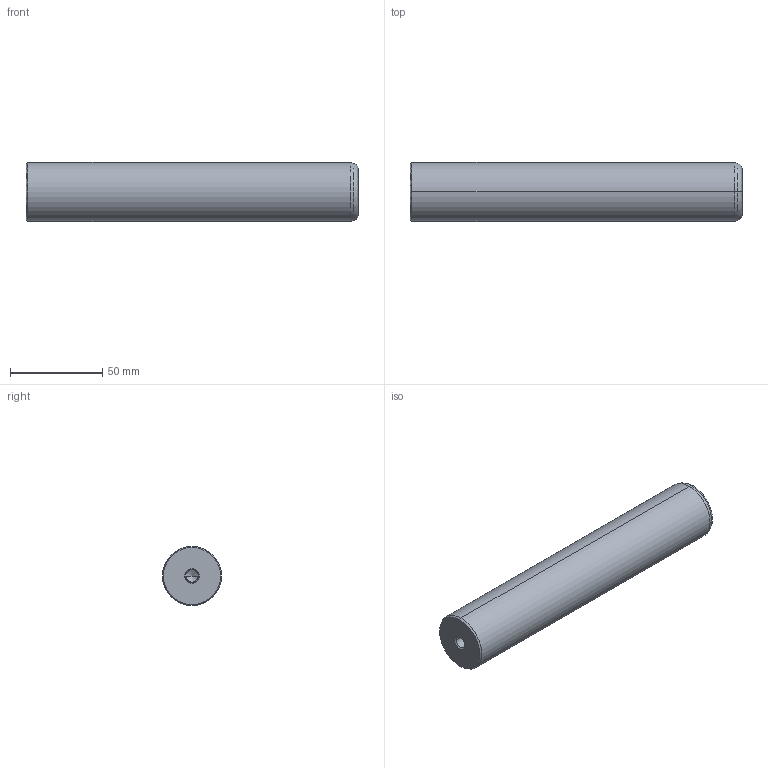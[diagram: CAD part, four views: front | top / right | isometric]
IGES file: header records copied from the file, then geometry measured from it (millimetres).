
Start section: START RECORD GO HERE.
Global section: file name: 720-32x180.igs; native system: DASSAULT SYSTEMES CATIA V5 R20 - www.3ds.com; preprocessor: CATIA Version 5 Release 20 ; author: Utente; organization: NB04-ASUS; date: 20210101.131847; units: millimetre
Bounding box: 180 x 32 x 32 mm (x, y, z)
Surface area: 20488.3 mm2 (no closed solid volume)
Topology: 0 solids, 0 shells, 22 faces, 108 edges, 104 vertices
Faces by surface type: revolution 20, plane 2
